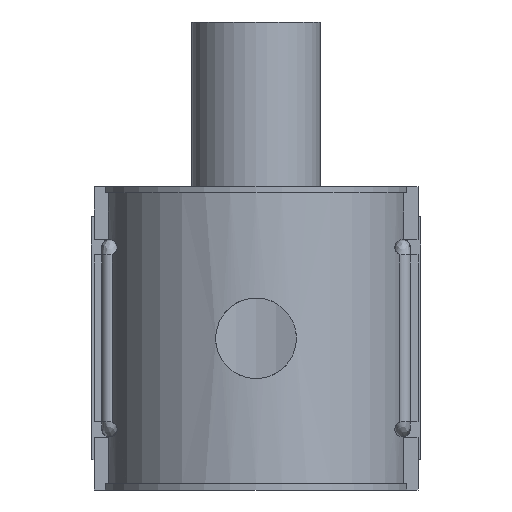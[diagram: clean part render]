
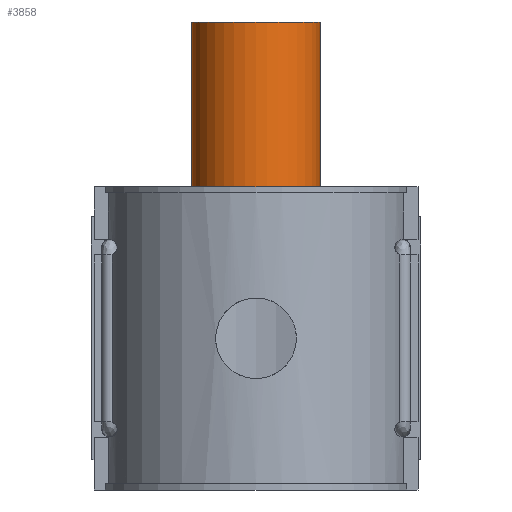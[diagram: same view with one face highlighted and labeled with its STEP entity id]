
A CAD part, front view. The second image highlights one B-rep face of the part: STEP entity #3858.
In plain terms, the highlighted cylindrical face has radius 25 mm (diameter 50 mm), a full revolution.
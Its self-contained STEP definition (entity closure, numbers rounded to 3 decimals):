
#340=CIRCLE('',#4223,25.);
#341=CIRCLE('',#4224,25.);
#342=CIRCLE('',#4225,25.);
#343=CIRCLE('',#4226,25.);
#583=FACE_OUTER_BOUND('',#826,.T.);
#826=EDGE_LOOP('',(#3572,#3573,#3574,#3575,#3576,#3577));
#1151=LINE('',#8058,#1472);
#1472=VECTOR('',#5237,25.);
#1907=VERTEX_POINT('',#8053);
#1908=VERTEX_POINT('',#8054);
#1909=VERTEX_POINT('',#8057);
#1910=VERTEX_POINT('',#8059);
#2464=EDGE_CURVE('',#1907,#1908,#340,.T.);
#2465=EDGE_CURVE('',#1908,#1907,#341,.T.);
#2466=EDGE_CURVE('',#1908,#1909,#1151,.T.);
#2467=EDGE_CURVE('',#1909,#1910,#342,.T.);
#2468=EDGE_CURVE('',#1910,#1909,#343,.T.);
#3572=ORIENTED_EDGE('',*,*,#2464,.F.);
#3573=ORIENTED_EDGE('',*,*,#2465,.F.);
#3574=ORIENTED_EDGE('',*,*,#2466,.T.);
#3575=ORIENTED_EDGE('',*,*,#2467,.T.);
#3576=ORIENTED_EDGE('',*,*,#2468,.T.);
#3577=ORIENTED_EDGE('',*,*,#2466,.F.);
#3642=CYLINDRICAL_SURFACE('',#4222,25.);
#3858=ADVANCED_FACE('',(#583),#3642,.T.);
#4222=AXIS2_PLACEMENT_3D('',#8052,#5231,#5232);
#4223=AXIS2_PLACEMENT_3D('',#8055,#5233,#5234);
#4224=AXIS2_PLACEMENT_3D('',#8056,#5235,#5236);
#4225=AXIS2_PLACEMENT_3D('',#8060,#5238,#5239);
#4226=AXIS2_PLACEMENT_3D('',#8061,#5240,#5241);
#5231=DIRECTION('center_axis',(0.,0.,1.));
#5232=DIRECTION('ref_axis',(0.,-1.,0.));
#5233=DIRECTION('center_axis',(0.,0.,1.));
#5234=DIRECTION('ref_axis',(1.,0.,0.));
#5235=DIRECTION('center_axis',(0.,0.,1.));
#5236=DIRECTION('ref_axis',(1.,0.,0.));
#5237=DIRECTION('',(0.,0.,-1.));
#5238=DIRECTION('center_axis',(0.,0.,1.));
#5239=DIRECTION('ref_axis',(1.,0.,0.));
#5240=DIRECTION('center_axis',(0.,0.,1.));
#5241=DIRECTION('ref_axis',(1.,0.,0.));
#8052=CARTESIAN_POINT('Origin',(0.,109.,61.5));
#8053=CARTESIAN_POINT('',(0.,84.,123.));
#8054=CARTESIAN_POINT('',(0.,134.,123.));
#8055=CARTESIAN_POINT('Origin',(0.,109.,123.));
#8056=CARTESIAN_POINT('Origin',(0.,109.,123.));
#8057=CARTESIAN_POINT('',(0.,134.,0.));
#8058=CARTESIAN_POINT('',(0.,134.,61.5));
#8059=CARTESIAN_POINT('',(0.,84.,0.));
#8060=CARTESIAN_POINT('Origin',(0.,109.,0.));
#8061=CARTESIAN_POINT('Origin',(0.,109.,0.));
